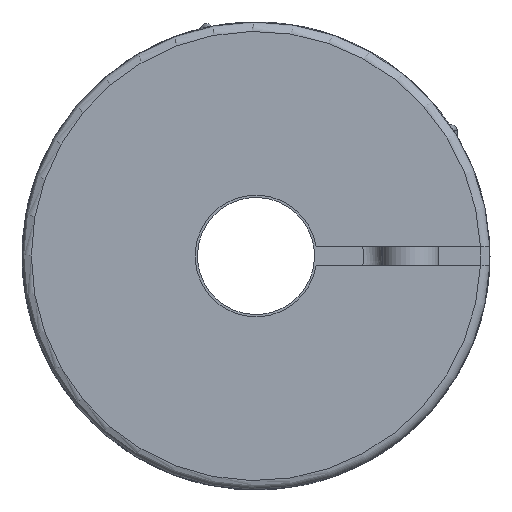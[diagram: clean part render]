
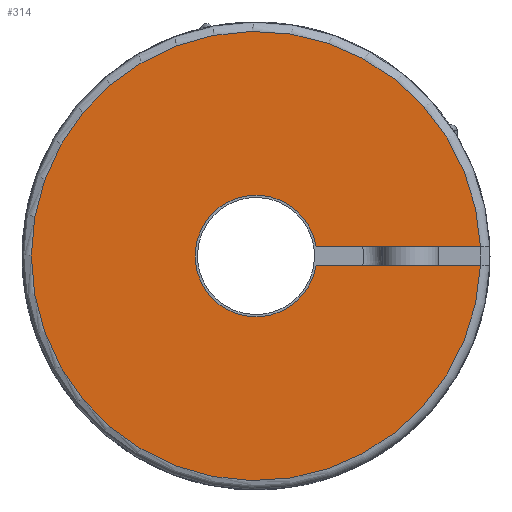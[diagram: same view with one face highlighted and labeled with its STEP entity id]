
A CAD part, left-side view. The second image highlights one B-rep face of the part: STEP entity #314.
In plain terms, the highlighted planar face has unit normal (-1, 0, 0).
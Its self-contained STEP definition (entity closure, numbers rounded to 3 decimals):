
#314 = ADVANCED_FACE( '', ( #829 ), #830, .T. );
#829 = FACE_OUTER_BOUND( '', #1580, .T. );
#830 = PLANE( '', #1581 );
#1580 = EDGE_LOOP( '', ( #2613, #2614, #2615, #2616 ) );
#1581 = AXIS2_PLACEMENT_3D( '', #2617, #2618, #2619 );
#2613 = ORIENTED_EDGE( '', *, *, #4483, .T. );
#2614 = ORIENTED_EDGE( '', *, *, #4484, .F. );
#2615 = ORIENTED_EDGE( '', *, *, #4485, .F. );
#2616 = ORIENTED_EDGE( '', *, *, #4486, .T. );
#2617 = CARTESIAN_POINT( '', ( 0., 0., 4.25 ) );
#2618 = DIRECTION( '', ( -1., 0., 0. ) );
#2619 = DIRECTION( '', ( 0., 0., 1. ) );
#4483 = EDGE_CURVE( '', #5480, #5481, #5482, .T. );
#4484 = EDGE_CURVE( '', #5483, #5481, #5484, .T. );
#4485 = EDGE_CURVE( '', #5485, #5483, #5486, .T. );
#4486 = EDGE_CURVE( '', #5485, #5480, #5487, .T. );
#5480 = VERTEX_POINT( '', #7187 );
#5481 = VERTEX_POINT( '', #7188 );
#5482 = LINE( '', #7189, #7190 );
#5483 = VERTEX_POINT( '', #7191 );
#5484 = CIRCLE( '', #7192, 6.5 );
#5485 = VERTEX_POINT( '', #7193 );
#5486 = LINE( '', #7194, #7195 );
#5487 = CIRCLE( '', #7196, 24. );
#7187 = CARTESIAN_POINT( '', ( 0., -23.979, -1. ) );
#7188 = CARTESIAN_POINT( '', ( 0., -6.423, -1. ) );
#7189 = CARTESIAN_POINT( '', ( 0., -73.025, -1. ) );
#7190 = VECTOR( '', #8753, 1000. );
#7191 = CARTESIAN_POINT( '', ( 0., -6.423, 1. ) );
#7192 = AXIS2_PLACEMENT_3D( '', #8754, #8755, #8756 );
#7193 = CARTESIAN_POINT( '', ( 0., -23.979, 1. ) );
#7194 = CARTESIAN_POINT( '', ( 0., -73.025, 1. ) );
#7195 = VECTOR( '', #8757, 1000. );
#7196 = AXIS2_PLACEMENT_3D( '', #8758, #8759, #8760 );
#8753 = DIRECTION( '', ( 0., 1., 0. ) );
#8754 = CARTESIAN_POINT( '', ( 0., 0., 0. ) );
#8755 = DIRECTION( '', ( -1., 0., 0. ) );
#8756 = DIRECTION( '', ( 0., -1., 0. ) );
#8757 = DIRECTION( '', ( 0., 1., 0. ) );
#8758 = CARTESIAN_POINT( '', ( 0., 0., 0. ) );
#8759 = DIRECTION( '', ( -1., 0., 0. ) );
#8760 = DIRECTION( '', ( 0., 0., 1. ) );
